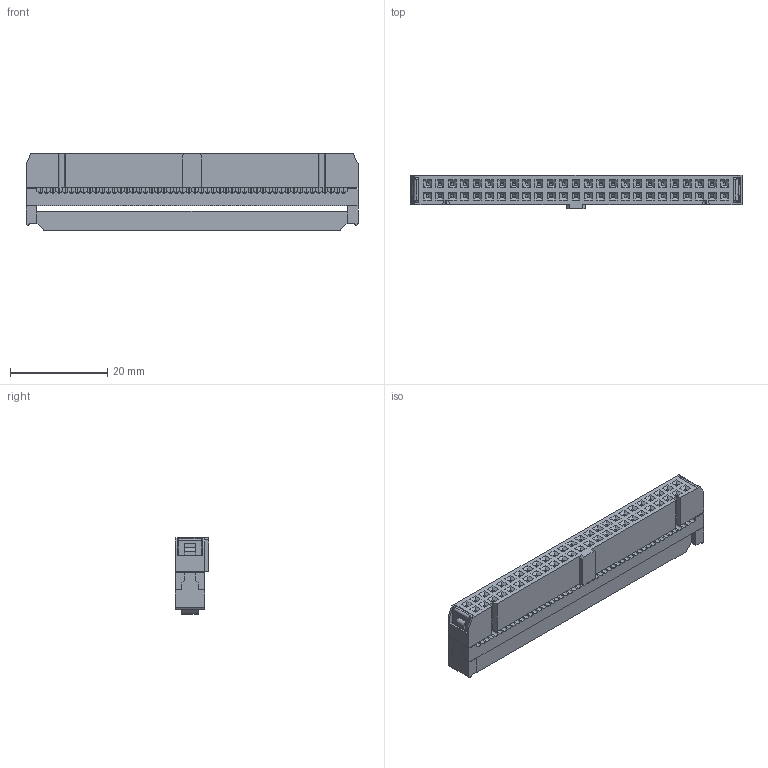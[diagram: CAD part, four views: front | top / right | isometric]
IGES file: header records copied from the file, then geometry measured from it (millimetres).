
Global section: file name: Filename.iges; native system: Open CASCADE 7.3; preprocessor: Open CASCADE IGES processor 7.3; date: 20201209.080523; units: millimetre
Bounding box: 68.18 x 6.86 x 15.7 mm (x, y, z)
Surface area: 8348.4 mm2 (no closed solid volume)
Topology: 0 solids, 0 shells, 2801 faces, 15446 edges, 15434 vertices
Faces by surface type: plane 2136, revolution 650, extrusion 11, bspline 4
